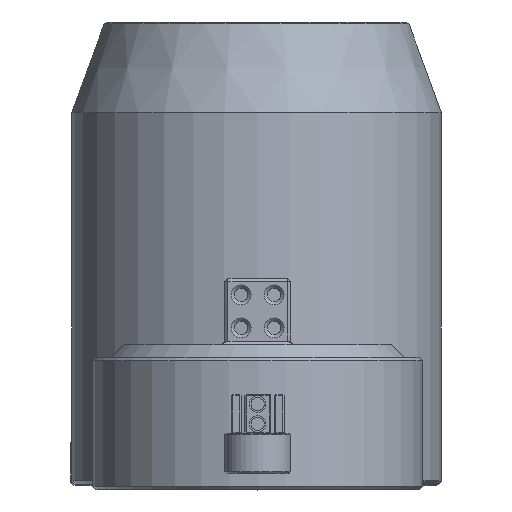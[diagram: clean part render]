
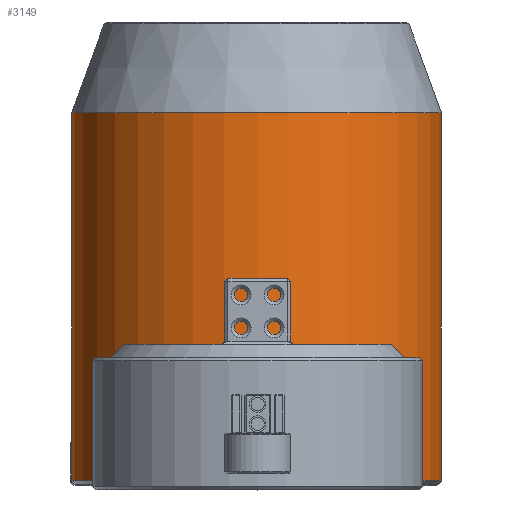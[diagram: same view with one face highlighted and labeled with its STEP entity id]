
A CAD part, top view. The second image highlights one B-rep face of the part: STEP entity #3149.
In plain terms, the highlighted cylindrical face has radius 28 mm (diameter 56 mm), a full revolution.
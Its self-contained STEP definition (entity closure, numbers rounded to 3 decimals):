
#621=CYLINDRICAL_SURFACE('',#3397,28.);
#807=FACE_BOUND('',#1163,.T.);
#921=FACE_OUTER_BOUND('',#1162,.T.);
#1162=EDGE_LOOP('',(#2285));
#1163=EDGE_LOOP('',(#2286));
#1510=CIRCLE('',#3394,28.);
#1512=CIRCLE('',#3398,28.);
#1625=VERTEX_POINT('',#4773);
#1627=VERTEX_POINT('',#4779);
#1875=EDGE_CURVE('',#1625,#1625,#1510,.T.);
#1877=EDGE_CURVE('',#1627,#1627,#1512,.T.);
#2285=ORIENTED_EDGE('',*,*,#1877,.F.);
#2286=ORIENTED_EDGE('',*,*,#1875,.F.);
#3149=ADVANCED_FACE('',(#921,#807),#621,.T.);
#3394=AXIS2_PLACEMENT_3D('',#4774,#3762,#3763);
#3397=AXIS2_PLACEMENT_3D('',#4778,#3768,#3769);
#3398=AXIS2_PLACEMENT_3D('',#4780,#3770,#3771);
#3762=DIRECTION('center_axis',(0.,1.,0.));
#3763=DIRECTION('ref_axis',(1.,0.,0.));
#3768=DIRECTION('center_axis',(0.,1.,0.));
#3769=DIRECTION('ref_axis',(1.,0.,0.));
#3770=DIRECTION('center_axis',(0.,-1.,0.));
#3771=DIRECTION('ref_axis',(-1.,0.,0.));
#4773=CARTESIAN_POINT('',(-28.,56.263,0.));
#4774=CARTESIAN_POINT('Origin',(0.,56.263,0.));
#4778=CARTESIAN_POINT('Origin',(0.,25.,0.));
#4779=CARTESIAN_POINT('',(28.,0.5,0.));
#4780=CARTESIAN_POINT('Origin',(0.,0.5,0.));
